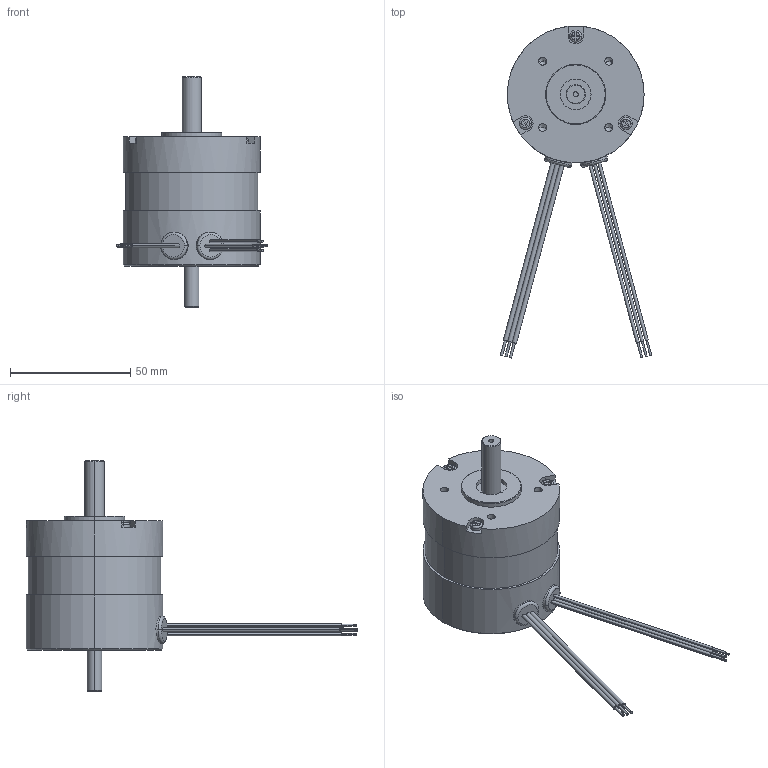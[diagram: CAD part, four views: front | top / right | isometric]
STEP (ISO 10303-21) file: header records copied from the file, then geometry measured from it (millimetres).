
FILE_DESCRIPTION (( 'STEP AP214' ), '1' );
FILE_NAME ('BLWR232D.STEP', '2013-07-24T21:42:02', ( '' ), ( '' ), 'SwSTEP 2.0', 'SolidWorks 2013', '' );
FILE_SCHEMA (( 'AUTOMOTIVE_DESIGN' ));
Length unit declared in the file: inch
Products named in the file (1): BLWR232D
Bounding box: 62.81 x 137.75 x 95.5 mm (x, y, z)
Volume: 135857.3 mm3; surface area: 20260.6 mm2
Topology: 1 solids, 1 shells, 289 faces, 707 edges, 444 vertices
Faces by surface type: plane 129, cylinder 110, cone 36, torus 14
Entity records: 12486 total; most frequent: CARTESIAN_POINT 1851, DIRECTION 1487, ORIENTED_EDGE 1378, EDGE_CURVE 689, AXIS2_PLACEMENT_3D 580, VERTEX_POINT 444, EDGE_LOOP 331, LINE 327
